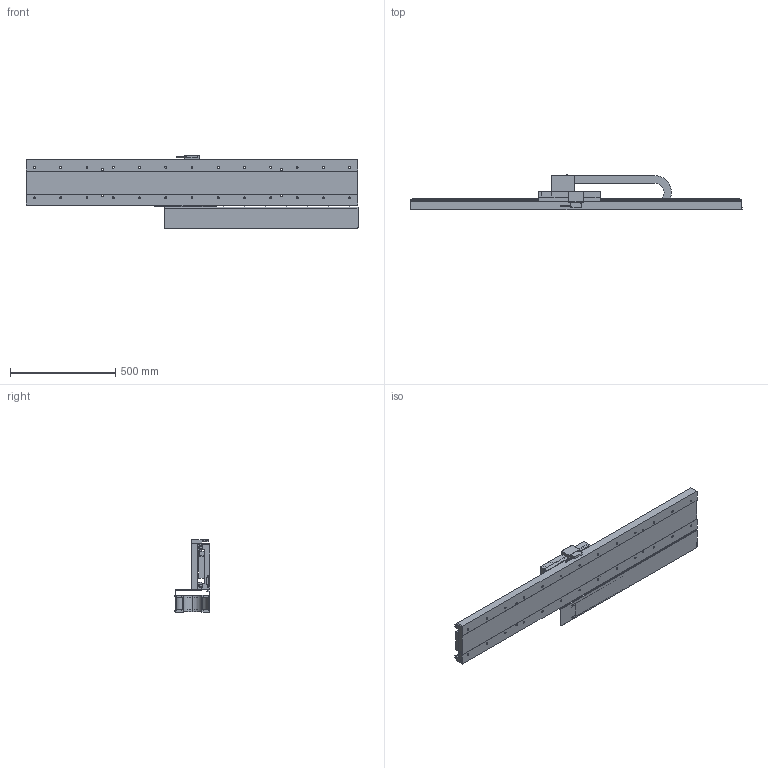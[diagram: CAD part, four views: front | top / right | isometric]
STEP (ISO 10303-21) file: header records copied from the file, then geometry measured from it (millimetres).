
FILE_DESCRIPTION (( 'STEP AP214' ), '1' );
FILE_NAME ('NST-A130##BPNA_#2.00_0.STEP', '2021-08-31T01:22:24', ( '' ), ( '' ), 'SwSTEP 2.0', 'SolidWorks 2018', '' );
FILE_SCHEMA (( 'AUTOMOTIVE_DESIGN' ));
Length unit declared in the file: millimetre
Products named in the file (4): AUA03000; 17YK0990_Org; AUA03260; NST-A130##BPNA_#2.00_0
Assembly tree (3 placements, depth 2):
  NST-A130##BPNA_#2.00_0
    AUA03260
    AUA03000
    17YK0990_Org
Bounding box: 1580.2 x 169 x 347 mm (x, y, z)
Volume: 17774342.4 mm3; surface area: 2168817.7 mm2
Topology: 37 solids, 37 shells, 1142 faces, 2915 edges, 1883 vertices
Faces by surface type: plane 666, cylinder 428, cone 40, sphere 8
Entity records: 46471 total; most frequent: DIRECTION 6021, CARTESIAN_POINT 5927, ORIENTED_EDGE 5722, EDGE_CURVE 2861, AXIS2_PLACEMENT_3D 2014, LINE 1993, VECTOR 1993, VERTEX_POINT 1875
